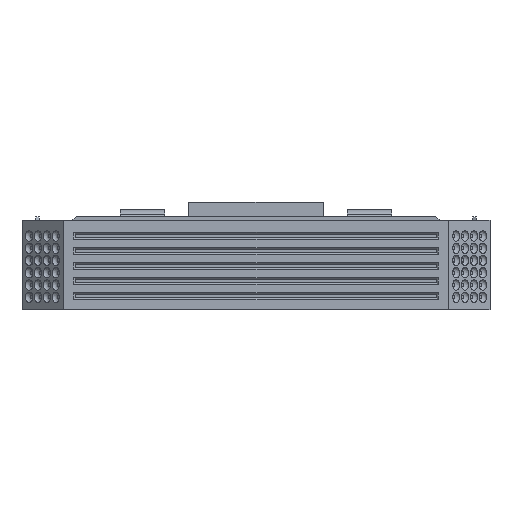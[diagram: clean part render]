
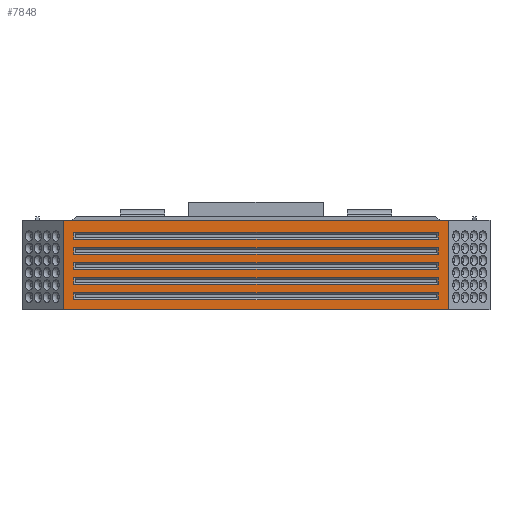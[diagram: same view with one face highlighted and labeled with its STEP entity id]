
A CAD part, front view. The second image highlights one B-rep face of the part: STEP entity #7848.
In plain terms, the highlighted planar face has unit normal (0, -1, 0).
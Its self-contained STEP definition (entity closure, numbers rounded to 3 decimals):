
#131=FACE_BOUND('',#2966,.T.);
#132=FACE_BOUND('',#2967,.T.);
#133=FACE_BOUND('',#2968,.T.);
#134=FACE_BOUND('',#2969,.T.);
#135=FACE_BOUND('',#2970,.T.);
#179=LINE('',#12492,#900);
#182=LINE('',#14051,#903);
#184=LINE('',#14055,#905);
#187=LINE('',#14061,#908);
#190=LINE('',#14066,#911);
#194=LINE('',#14076,#915);
#196=LINE('',#14080,#917);
#199=LINE('',#14086,#920);
#202=LINE('',#14091,#923);
#206=LINE('',#14101,#927);
#208=LINE('',#14105,#929);
#211=LINE('',#14111,#932);
#214=LINE('',#14116,#935);
#218=LINE('',#14126,#939);
#220=LINE('',#14130,#941);
#223=LINE('',#14136,#944);
#226=LINE('',#14141,#947);
#230=LINE('',#14151,#951);
#232=LINE('',#14155,#953);
#235=LINE('',#14161,#956);
#238=LINE('',#14166,#959);
#287=LINE('',#14270,#1008);
#567=LINE('',#14874,#1288);
#823=LINE('',#15385,#1544);
#900=VECTOR('',#9062,10.);
#903=VECTOR('',#9443,10.);
#905=VECTOR('',#9447,10.);
#908=VECTOR('',#9452,10.);
#911=VECTOR('',#9457,10.);
#915=VECTOR('',#9465,10.);
#917=VECTOR('',#9469,10.);
#920=VECTOR('',#9474,10.);
#923=VECTOR('',#9479,10.);
#927=VECTOR('',#9487,10.);
#929=VECTOR('',#9491,10.);
#932=VECTOR('',#9496,10.);
#935=VECTOR('',#9501,10.);
#939=VECTOR('',#9509,10.);
#941=VECTOR('',#9513,10.);
#944=VECTOR('',#9518,10.);
#947=VECTOR('',#9523,10.);
#951=VECTOR('',#9531,10.);
#953=VECTOR('',#9535,10.);
#956=VECTOR('',#9540,10.);
#959=VECTOR('',#9545,10.);
#1008=VECTOR('',#9618,10.);
#1288=VECTOR('',#10134,10.);
#1544=VECTOR('',#10622,10.);
#1940=PLANE('',#8568);
#2403=FACE_OUTER_BOUND('',#2965,.T.);
#2965=EDGE_LOOP('',(#7042,#7043,#7044,#7045));
#2966=EDGE_LOOP('',(#7046,#7047,#7048,#7049));
#2967=EDGE_LOOP('',(#7050,#7051,#7052,#7053));
#2968=EDGE_LOOP('',(#7054,#7055,#7056,#7057));
#2969=EDGE_LOOP('',(#7058,#7059,#7060,#7061));
#2970=EDGE_LOOP('',(#7062,#7063,#7064,#7065));
#3504=VERTEX_POINT('',#12485);
#3507=VERTEX_POINT('',#12490);
#3604=VERTEX_POINT('',#14048);
#3605=VERTEX_POINT('',#14050);
#3606=VERTEX_POINT('',#14054);
#3608=VERTEX_POINT('',#14060);
#3612=VERTEX_POINT('',#14073);
#3613=VERTEX_POINT('',#14075);
#3614=VERTEX_POINT('',#14079);
#3616=VERTEX_POINT('',#14085);
#3620=VERTEX_POINT('',#14098);
#3621=VERTEX_POINT('',#14100);
#3622=VERTEX_POINT('',#14104);
#3624=VERTEX_POINT('',#14110);
#3628=VERTEX_POINT('',#14123);
#3629=VERTEX_POINT('',#14125);
#3630=VERTEX_POINT('',#14129);
#3632=VERTEX_POINT('',#14135);
#3636=VERTEX_POINT('',#14148);
#3637=VERTEX_POINT('',#14150);
#3638=VERTEX_POINT('',#14154);
#3640=VERTEX_POINT('',#14160);
#3684=VERTEX_POINT('',#14269);
#3890=VERTEX_POINT('',#14872);
#4254=EDGE_CURVE('',#3507,#3504,#179,.T.);
#4398=EDGE_CURVE('',#3605,#3604,#182,.T.);
#4400=EDGE_CURVE('',#3604,#3606,#184,.T.);
#4403=EDGE_CURVE('',#3606,#3608,#187,.T.);
#4406=EDGE_CURVE('',#3608,#3605,#190,.T.);
#4410=EDGE_CURVE('',#3613,#3612,#194,.T.);
#4412=EDGE_CURVE('',#3612,#3614,#196,.T.);
#4415=EDGE_CURVE('',#3614,#3616,#199,.T.);
#4418=EDGE_CURVE('',#3616,#3613,#202,.T.);
#4422=EDGE_CURVE('',#3621,#3620,#206,.T.);
#4424=EDGE_CURVE('',#3620,#3622,#208,.T.);
#4427=EDGE_CURVE('',#3622,#3624,#211,.T.);
#4430=EDGE_CURVE('',#3624,#3621,#214,.T.);
#4434=EDGE_CURVE('',#3629,#3628,#218,.T.);
#4436=EDGE_CURVE('',#3628,#3630,#220,.T.);
#4439=EDGE_CURVE('',#3630,#3632,#223,.T.);
#4442=EDGE_CURVE('',#3632,#3629,#226,.T.);
#4446=EDGE_CURVE('',#3637,#3636,#230,.T.);
#4448=EDGE_CURVE('',#3636,#3638,#232,.T.);
#4451=EDGE_CURVE('',#3638,#3640,#235,.T.);
#4454=EDGE_CURVE('',#3640,#3637,#238,.T.);
#4505=EDGE_CURVE('',#3684,#3504,#287,.T.);
#4810=EDGE_CURVE('',#3890,#3507,#567,.T.);
#5070=EDGE_CURVE('',#3684,#3890,#823,.T.);
#7042=ORIENTED_EDGE('',*,*,#4505,.T.);
#7043=ORIENTED_EDGE('',*,*,#4254,.F.);
#7044=ORIENTED_EDGE('',*,*,#4810,.F.);
#7045=ORIENTED_EDGE('',*,*,#5070,.F.);
#7046=ORIENTED_EDGE('',*,*,#4422,.T.);
#7047=ORIENTED_EDGE('',*,*,#4424,.T.);
#7048=ORIENTED_EDGE('',*,*,#4427,.T.);
#7049=ORIENTED_EDGE('',*,*,#4430,.T.);
#7050=ORIENTED_EDGE('',*,*,#4434,.T.);
#7051=ORIENTED_EDGE('',*,*,#4436,.T.);
#7052=ORIENTED_EDGE('',*,*,#4439,.T.);
#7053=ORIENTED_EDGE('',*,*,#4442,.T.);
#7054=ORIENTED_EDGE('',*,*,#4410,.T.);
#7055=ORIENTED_EDGE('',*,*,#4412,.T.);
#7056=ORIENTED_EDGE('',*,*,#4415,.T.);
#7057=ORIENTED_EDGE('',*,*,#4418,.T.);
#7058=ORIENTED_EDGE('',*,*,#4446,.T.);
#7059=ORIENTED_EDGE('',*,*,#4448,.T.);
#7060=ORIENTED_EDGE('',*,*,#4451,.T.);
#7061=ORIENTED_EDGE('',*,*,#4454,.T.);
#7062=ORIENTED_EDGE('',*,*,#4398,.T.);
#7063=ORIENTED_EDGE('',*,*,#4400,.T.);
#7064=ORIENTED_EDGE('',*,*,#4403,.T.);
#7065=ORIENTED_EDGE('',*,*,#4406,.T.);
#7848=ADVANCED_FACE('',(#2403,#131,#132,#133,#134,#135),#1940,.T.);
#8568=AXIS2_PLACEMENT_3D('',#15384,#10620,#10621);
#9062=DIRECTION('',(0.,0.,1.));
#9443=DIRECTION('',(0.,0.,1.));
#9447=DIRECTION('',(1.,0.,0.));
#9452=DIRECTION('',(0.,0.,-1.));
#9457=DIRECTION('',(-1.,0.,0.));
#9465=DIRECTION('',(0.,0.,-1.));
#9469=DIRECTION('',(-1.,0.,0.));
#9474=DIRECTION('',(0.,0.,1.));
#9479=DIRECTION('',(1.,0.,0.));
#9487=DIRECTION('',(0.,0.,-1.));
#9491=DIRECTION('',(-1.,0.,0.));
#9496=DIRECTION('',(0.,0.,1.));
#9501=DIRECTION('',(1.,0.,0.));
#9509=DIRECTION('',(0.,0.,-1.));
#9513=DIRECTION('',(-1.,0.,0.));
#9518=DIRECTION('',(0.,0.,1.));
#9523=DIRECTION('',(1.,0.,0.));
#9531=DIRECTION('',(0.,0.,-1.));
#9535=DIRECTION('',(-1.,0.,0.));
#9540=DIRECTION('',(0.,0.,1.));
#9545=DIRECTION('',(1.,0.,0.));
#9618=DIRECTION('',(-1.,0.,0.));
#10134=DIRECTION('',(-1.,0.,0.));
#10620=DIRECTION('center_axis',(0.,-1.,0.));
#10621=DIRECTION('ref_axis',(1.,0.,0.));
#10622=DIRECTION('',(0.,0.,-1.));
#12485=CARTESIAN_POINT('',(-56.,-66.,34.5));
#12490=CARTESIAN_POINT('',(-56.,-66.,8.5));
#12492=CARTESIAN_POINT('',(-56.,-66.,8.5));
#14048=CARTESIAN_POINT('',(-53.,-66.,31.));
#14050=CARTESIAN_POINT('',(-53.,-66.,29.));
#14051=CARTESIAN_POINT('',(-53.,-66.,18.75));
#14054=CARTESIAN_POINT('',(53.,-66.,31.));
#14055=CARTESIAN_POINT('',(-59.5,-66.,31.));
#14060=CARTESIAN_POINT('',(53.,-66.,29.));
#14061=CARTESIAN_POINT('',(53.,-66.,19.75));
#14066=CARTESIAN_POINT('',(-6.5,-66.,29.));
#14073=CARTESIAN_POINT('',(53.,-66.,24.63));
#14075=CARTESIAN_POINT('',(53.,-66.,26.63));
#14076=CARTESIAN_POINT('',(53.,-66.,17.565));
#14079=CARTESIAN_POINT('',(-53.,-66.,24.63));
#14080=CARTESIAN_POINT('',(-6.5,-66.,24.63));
#14085=CARTESIAN_POINT('',(-53.,-66.,26.63));
#14086=CARTESIAN_POINT('',(-53.,-66.,16.565));
#14091=CARTESIAN_POINT('',(-59.5,-66.,26.63));
#14098=CARTESIAN_POINT('',(53.,-66.,20.26));
#14100=CARTESIAN_POINT('',(53.,-66.,22.26));
#14101=CARTESIAN_POINT('',(53.,-66.,15.38));
#14104=CARTESIAN_POINT('',(-53.,-66.,20.26));
#14105=CARTESIAN_POINT('',(-6.5,-66.,20.26));
#14110=CARTESIAN_POINT('',(-53.,-66.,22.26));
#14111=CARTESIAN_POINT('',(-53.,-66.,14.38));
#14116=CARTESIAN_POINT('',(-59.5,-66.,22.26));
#14123=CARTESIAN_POINT('',(53.,-66.,15.89));
#14125=CARTESIAN_POINT('',(53.,-66.,17.89));
#14126=CARTESIAN_POINT('',(53.,-66.,13.195));
#14129=CARTESIAN_POINT('',(-53.,-66.,15.89));
#14130=CARTESIAN_POINT('',(-6.5,-66.,15.89));
#14135=CARTESIAN_POINT('',(-53.,-66.,17.89));
#14136=CARTESIAN_POINT('',(-53.,-66.,12.195));
#14141=CARTESIAN_POINT('',(-59.5,-66.,17.89));
#14148=CARTESIAN_POINT('',(53.,-66.,11.52));
#14150=CARTESIAN_POINT('',(53.,-66.,13.52));
#14151=CARTESIAN_POINT('',(53.,-66.,11.01));
#14154=CARTESIAN_POINT('',(-53.,-66.,11.52));
#14155=CARTESIAN_POINT('',(-6.5,-66.,11.52));
#14160=CARTESIAN_POINT('',(-53.,-66.,13.52));
#14161=CARTESIAN_POINT('',(-53.,-66.,10.01));
#14166=CARTESIAN_POINT('',(-59.5,-66.,13.52));
#14269=CARTESIAN_POINT('',(56.,-66.,34.5));
#14270=CARTESIAN_POINT('',(-33.,-66.,34.5));
#14872=CARTESIAN_POINT('',(56.,-66.,8.5));
#14874=CARTESIAN_POINT('',(66.,-66.,8.5));
#15384=CARTESIAN_POINT('Origin',(-66.,-66.,8.5));
#15385=CARTESIAN_POINT('',(56.,-66.,8.5));
